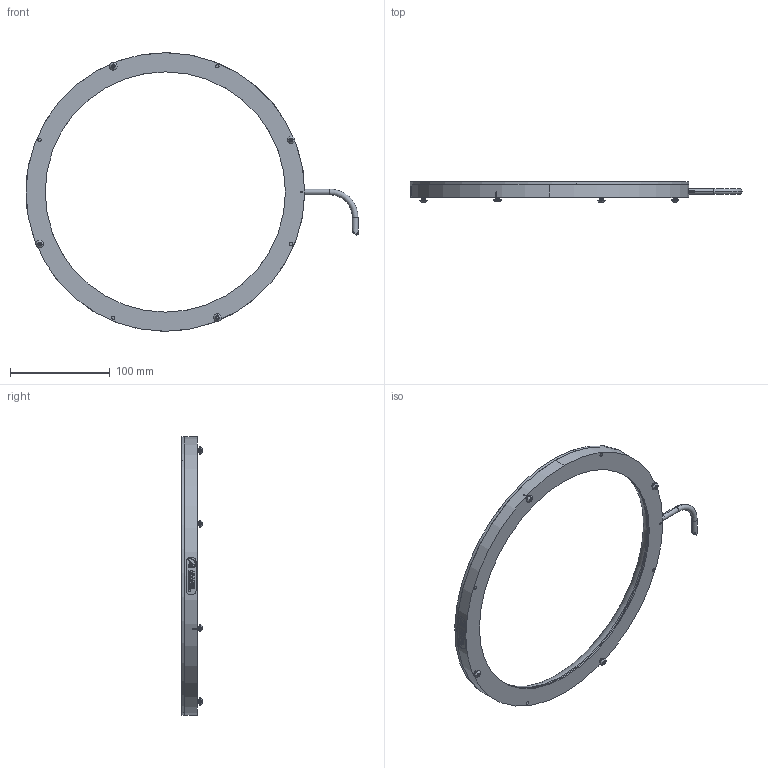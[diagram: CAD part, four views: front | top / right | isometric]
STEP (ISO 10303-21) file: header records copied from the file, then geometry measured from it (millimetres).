
FILE_DESCRIPTION (( 'STEP AP214' ), '1' );
FILE_NAME ('DF198-280_Default.stp', '2021-05-03T14:10:32', ( '' ), ( '' ), 'SwSTEP 2.0', 'SolidWorks 2018', '' );
FILE_SCHEMA (( 'AUTOMOTIVE_DESIGN' ));
Length unit declared in the file: inch
Products named in the file (8): 091052 DF198-280; 092531_91375A076; 092754_Default<As Machined>; DF198-280_Default; 092408_TRUNCATED; BH-M4x8; 092775; 097012_91253A078
Assembly tree (17 placements, depth 2):
  DF198-280_Default
    092754_Default<As Machined>
    092775
    097012_91253A078  x8
    BH-M4x8  x4
    092531_91375A076
    091052 DF198-280
    092408_TRUNCATED
Bounding box: 333.65 x 20.45 x 280 mm (x, y, z)
Volume: 156857.4 mm3; surface area: 106531.2 mm2
Topology: 24 solids, 24 shells, 1107 faces, 2755 edges, 1735 vertices
Faces by surface type: cylinder 461, plane 313, cone 179, bspline 122, torus 32
Entity records: 32753 total; most frequent: CARTESIAN_POINT 15459, ORIENTED_EDGE 2760, DIRECTION 2262, EDGE_CURVE 1380, AXIS2_PLACEMENT_3D 902, VERTEX_POINT 890, EDGE_LOOP 654, FACE_OUTER_BOUND 564
